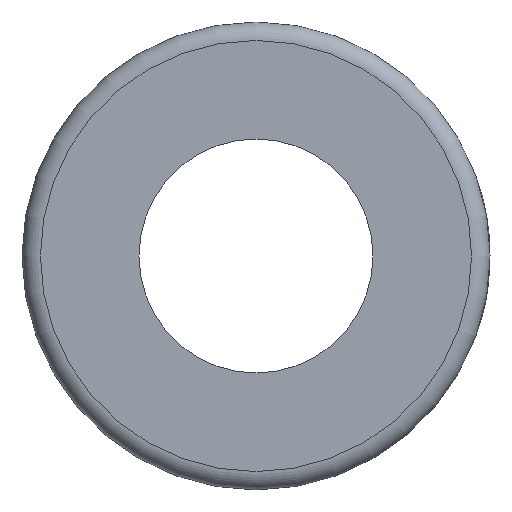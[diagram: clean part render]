
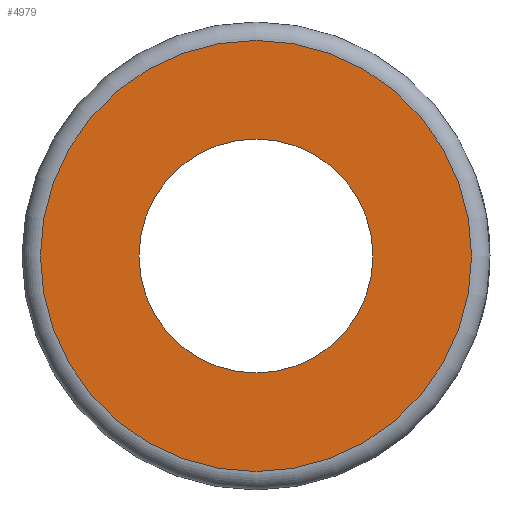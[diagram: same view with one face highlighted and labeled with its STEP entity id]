
A CAD part, left-side view. The second image highlights one B-rep face of the part: STEP entity #4979.
In plain terms, the highlighted planar face has unit normal (-1, 0, 0).
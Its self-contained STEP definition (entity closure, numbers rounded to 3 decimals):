
#113=PLANE('',#5371);
#1511=ORIENTED_EDGE('',*,*,#3013,.T.);
#1512=ORIENTED_EDGE('',*,*,#3014,.T.);
#3013=EDGE_CURVE('',#3764,#3764,#4112,.F.);
#3014=EDGE_CURVE('',#3765,#3765,#4113,.T.);
#3764=VERTEX_POINT('',#7667);
#3765=VERTEX_POINT('',#7669);
#4112=CIRCLE('',#5372,5.85);
#4113=CIRCLE('',#5373,3.175);
#4236=EDGE_LOOP('',(#1511));
#4237=EDGE_LOOP('',(#1512));
#4601=FACE_BOUND('',#4236,.T.);
#4602=FACE_BOUND('',#4237,.T.);
#4979=ADVANCED_FACE('',(#4601,#4602),#113,.F.);
#5371=AXIS2_PLACEMENT_3D('',#7665,#5903,#5904);
#5372=AXIS2_PLACEMENT_3D('',#7666,#5905,#5906);
#5373=AXIS2_PLACEMENT_3D('',#7668,#5907,#5908);
#5903=DIRECTION('',(1.,0.,0.));
#5904=DIRECTION('',(0.,0.,-1.));
#5905=DIRECTION('',(1.,0.,0.));
#5906=DIRECTION('',(0.,0.,-1.));
#5907=DIRECTION('',(1.,0.,0.));
#5908=DIRECTION('',(0.,0.,-1.));
#7665=CARTESIAN_POINT('',(-9.525,0.,0.));
#7666=CARTESIAN_POINT('',(-9.525,0.,0.));
#7667=CARTESIAN_POINT('',(-9.525,0.,-5.85));
#7668=CARTESIAN_POINT('',(-9.525,0.,0.));
#7669=CARTESIAN_POINT('',(-9.525,0.,-3.175));
